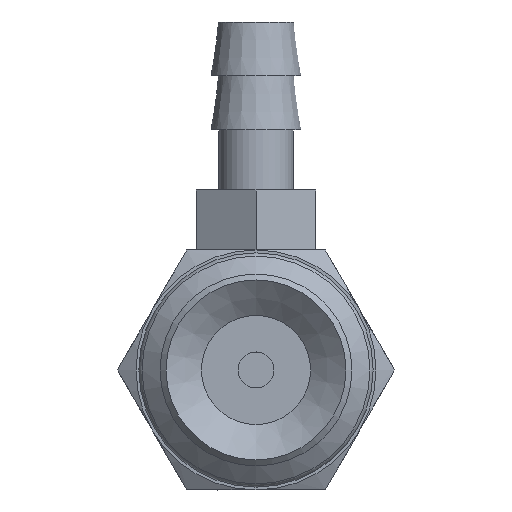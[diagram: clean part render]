
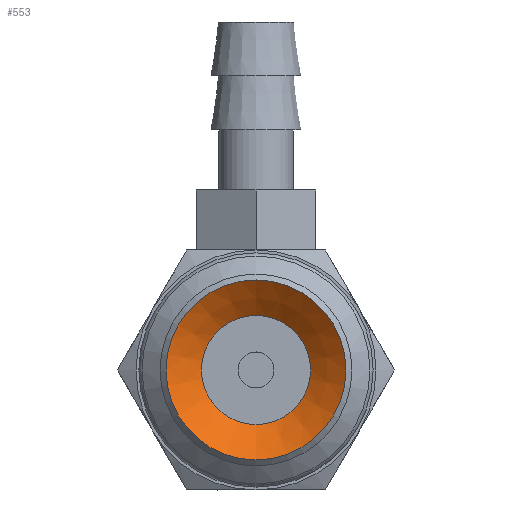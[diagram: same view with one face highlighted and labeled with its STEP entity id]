
A CAD part, front view. The second image highlights one B-rep face of the part: STEP entity #553.
In plain terms, the highlighted conical face has half-angle 52 degrees and reference radius 1.82 mm.
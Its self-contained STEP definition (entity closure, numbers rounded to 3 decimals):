
#553=ADVANCED_FACE('',(#822,#823),#824,.F.);
#822=FACE_BOUND('',#1146,.T.);
#823=FACE_OUTER_BOUND('',#1147,.T.);
#824=CONICAL_SURFACE('',#1148,1.82,0.908);
#1146=EDGE_LOOP('',(#1885));
#1147=EDGE_LOOP('',(#1886));
#1148=AXIS2_PLACEMENT_3D('',#1887,#1888,#1889);
#1885=ORIENTED_EDGE('',*,*,#2246,.F.);
#1886=ORIENTED_EDGE('',*,*,#2247,.T.);
#1887=CARTESIAN_POINT('',(0.0,6.889,0.0));
#1888=DIRECTION('',(-0.0,-1.0,0.));
#1889=DIRECTION('',(0.0,0.,-1.0));
#2246=EDGE_CURVE('',#2593,#2593,#2594,.T.);
#2247=EDGE_CURVE('',#2595,#2595,#2596,.T.);
#2593=VERTEX_POINT('',#3345);
#2594=CIRCLE('',#3346,1.82);
#2595=VERTEX_POINT('',#3347);
#2596=CIRCLE('',#3348,3.0);
#3345=CARTESIAN_POINT('',(0.0,6.889,-1.82));
#3346=AXIS2_PLACEMENT_3D('',#3709,#3710,#3711);
#3347=CARTESIAN_POINT('',(0.0,5.967,-3.0));
#3348=AXIS2_PLACEMENT_3D('',#3712,#3713,#3714);
#3709=CARTESIAN_POINT('',(0.0,6.889,0.0));
#3710=DIRECTION('',(0.0,-1.0,0.));
#3711=DIRECTION('',(0.0,0.,-1.0));
#3712=CARTESIAN_POINT('',(0.0,5.967,0.0));
#3713=DIRECTION('',(0.0,-1.0,0.));
#3714=DIRECTION('',(0.0,0.,-1.0));
